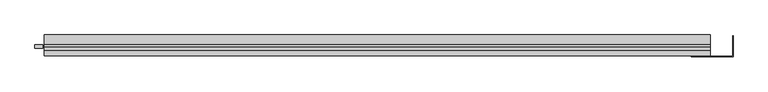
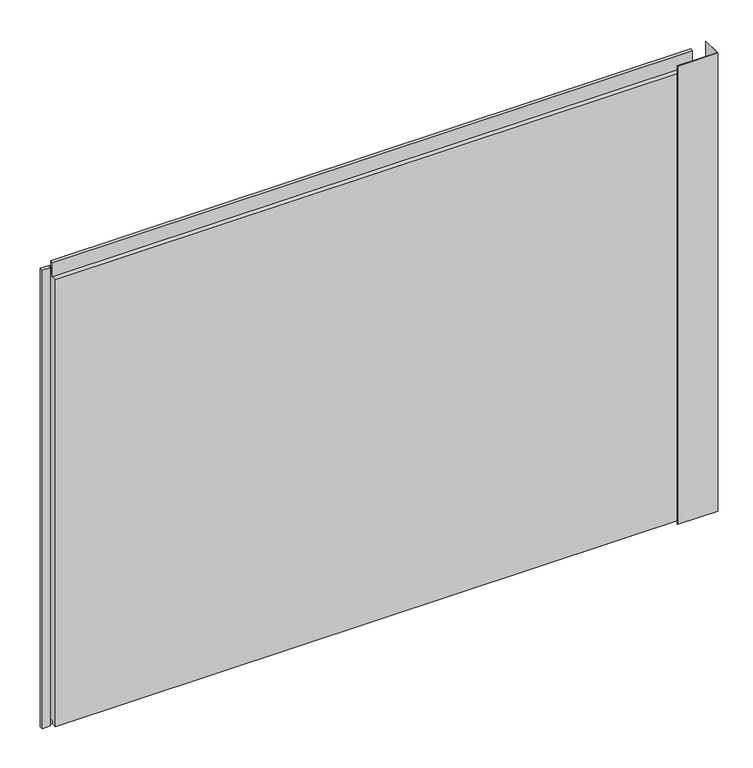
"""IFC4 building model written with IfcOpenShell, lengths in millimetres: plate geometry, Trimo_Qbiss Screen_Normal Panel-HORIZONTAL : HR - B."""

from ifc_helpers import new_model, si_unit, frame, origin, place, context, project, spatial, polyline, outline, extrude, source, transform, mapped, element, save


def plate_bf6faf88(model_context):
    return source(origin(), model_context, "Body", "SweptSolid", [
        extrude(outline(polyline([(702.7, 49.0), (801.0, 49.0), (801.0, 98.3), (801.8, 98.3), (801.8, 48.2), (702.7, 48.2), (702.7, 49.0)])), frame((0.0, 0.0, -1.0), z_axis=(0.0, 0.0, 1.0), x_axis=(1.0, 0.0, 0.0)), (0.0, 0.0, 1.0), 1200.0),
        extrude(outline(polyline([(-840.5, 76.5978162), (-840.5, 67.8978162), (-859.5, 67.8978162), (-859.5, 76.5978162), (-840.5, 76.5978162)])), frame((0.0, 0.0, -1.0), z_axis=(0.0, 0.0, 1.0), x_axis=(1.0, 0.0, 0.0)), (0.0, 0.0, 1.0), 1200.0),
        extrude(outline(polyline([(748.0, 76.0), (748.0, 71.0), (-837.5, 71.0), (-837.5, 76.0), (748.0, 76.0)])), frame((0.0, 0.0, 1178.0), z_axis=(0.0, 0.0, 1.0), x_axis=(1.0, 0.0, 0.0)), (0.0, 0.0, 1.0), 21.0),
        extrude(outline(polyline([(71.0, 1177.0), (100.0, 1177.0), (100.0, 0.0), (72.0, 0.0), (72.0, 15.5), (62.0, 15.5), (62.0, 7.0), (50.0, 7.0), (50.0, 1177.0), (63.0, 1177.0), (63.0, 1214.5), (71.0, 1214.5), (71.0, 1177.0)])), frame((-837.5, 0.0, 0.0), z_axis=(1.0, 0.0, 0.0), x_axis=(0.0, 1.0, 0.0)), (0.0, 0.0, 1.0), 1585.5),
    ])


if __name__ == "__main__":
    model = new_model("IFC4")
    model_context = context("Model", 3, world=origin())
    ifc_project = project(units=[si_unit("LENGTHUNIT", "METRE", prefix="MILLI")], contexts=[model_context])
    site = spatial("IfcSite", under=ifc_project)
    building = spatial("IfcBuilding", under=site)
    placement = place(None, origin())
    plate_shape = plate_bf6faf88(model_context)
    element("IfcPlate", 1, ObjectType="Trimo_Qbiss Screen_Normal Panel-HORIZONTAL : HR - B", at=placement, inside=building, context=model_context, shape_type="MappedRepresentation", body=[
        mapped(plate_shape, transform((0.0, 0.0, 0.0), x_axis=(1.0, 0.0, 0.0), y_axis=(0.0, 1.0, 0.0), z_axis=(0.0, 0.0, 1.0))),
    ])
    save(model, "model.ifc")
